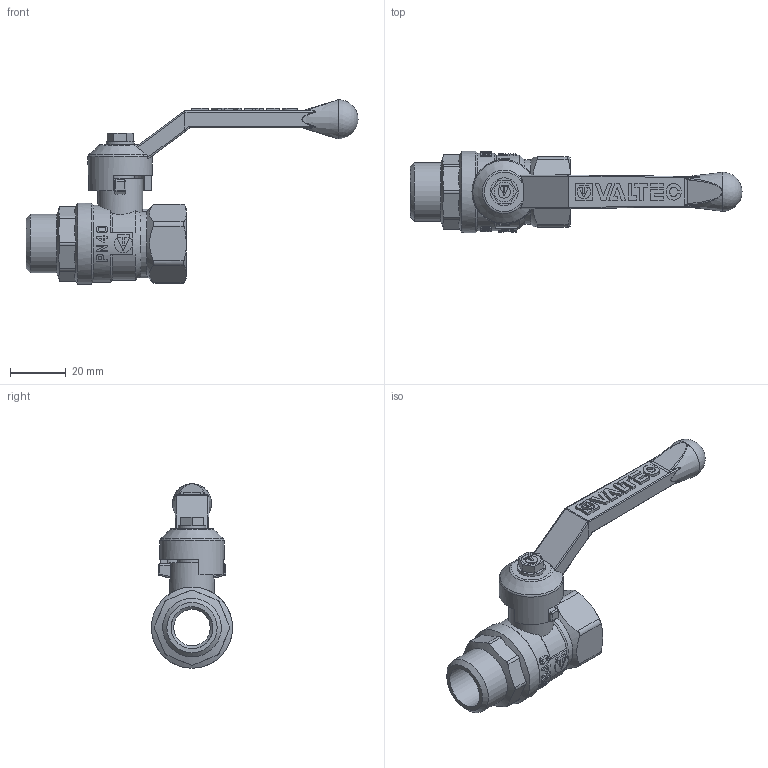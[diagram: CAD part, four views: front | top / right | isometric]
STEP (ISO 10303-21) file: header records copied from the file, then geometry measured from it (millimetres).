
FILE_DESCRIPTION(('STEP AP203'), '1');
FILE_NAME('VT.121.GN.04', '', ('UNSPECIFIED'), ('UNSPECIFIED'), 'C3D Converter', 'C3D Toolkit', '');
FILE_SCHEMA(('CONFIG_CONTROL_DESIGN'));
Length unit declared in the file: millimetre
Products named in the file (1): VT.121.GN.04
Bounding box: 118.65 x 29 x 65.9 mm (x, y, z)
Volume: 31378.4 mm3; surface area: 14464.5 mm2
Topology: 2 solids, 2 shells, 606 faces, 1587 edges, 1027 vertices
Faces by surface type: plane 381, cylinder 166, bspline 30, cone 21, sphere 5, torus 2, extrusion 1
Full cylindrical faces by diameter (mm): 7 x1, 10 x1, 10.2 x1, 13 x1, 15 x1, 16 x1, 18.632 x1, 20.955 x1, 23 x1, 27.6 x1, 29 x1
Entity records: 25417 total; most frequent: CARTESIAN_POINT 11093, ORIENTED_EDGE 3100, DIRECTION 2691, EDGE_CURVE 1550, VERTEX_POINT 1024, VECTOR 993, LINE 992, AXIS2_PLACEMENT_3D 849
